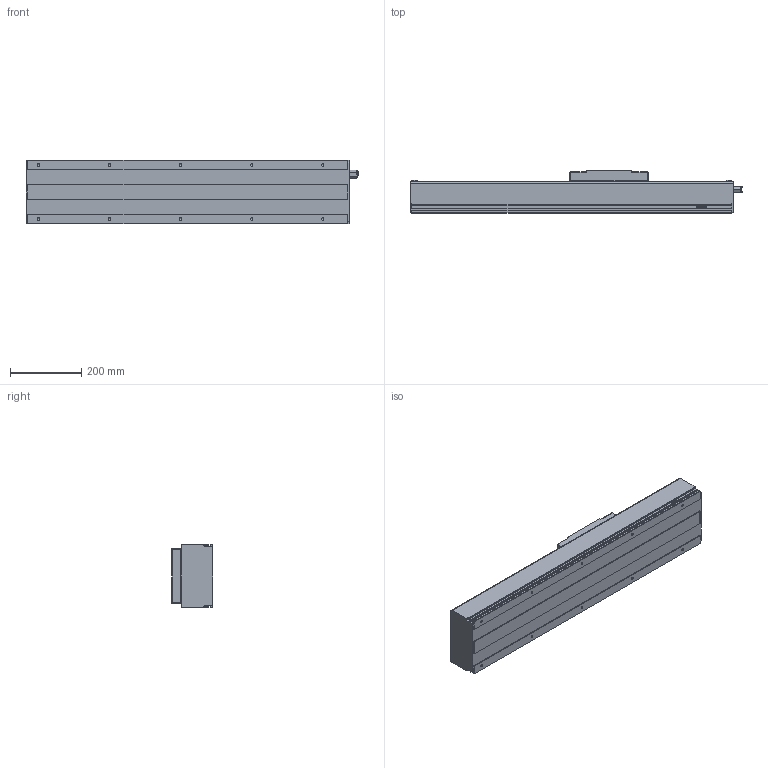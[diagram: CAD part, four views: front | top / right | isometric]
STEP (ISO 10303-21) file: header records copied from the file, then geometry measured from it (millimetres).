
FILE_DESCRIPTION(/* description */ (''),/* implementation_level */ '2;1');
FILE_NAME(/* name */ 'D:\混合母檔20191031\混和母檔\混和母檔\bin\Debug\Download\3D\KS180-10C-400AFI\KS180-10C-400AFI.stp',/* time_stamp */ '2019-11-04T16:13:10+08:00',/* author */ ('user'),/* organization */ (''),/* preprocessor_version */ 'ST-DEVELOPER v16.13',/* originating_system */ 'Autodesk Inventor 2018',/* authorisation */ '');
FILE_SCHEMA (('AUTOMOTIVE_DESIGN { 1 0 10303 214 3 1 1 }'));
Length unit declared in the file: millimetre
Products named in the file (3): KS180-10C-400AFI; KS180-FI; KS180-SL
Assembly tree (2 placements, depth 2):
  KS180-10C-400AFI
    KS180-FI
    KS180-SL
Bounding box: 934.5 x 118 x 180 mm (x, y, z)
Volume: 5589811.2 mm3; surface area: 1175227.1 mm2
Topology: 4 solids, 8 shells, 730 faces, 1944 edges, 1268 vertices
Faces by surface type: plane 408, bspline 136, cylinder 84, cone 82, torus 16, sphere 4
Full cylindrical faces by diameter (mm): 3.571 x4, 4 x4, 4.134 x4, 4.5 x4, 6 x6, 6.647 x10, 8 x6, 8.016 x1, 8.4 x4, 9.4 x4, 12 x2, 13.1 x1, 15 x1, 18.75 x2, 46 x1, 50 x1
Entity records: 26343 total; most frequent: CARTESIAN_POINT 9316, ORIENTED_EDGE 3658, DIRECTION 3050, EDGE_CURVE 1828, VERTEX_POINT 1245, LINE 1172, VECTOR 1172, AXIS2_PLACEMENT_3D 939
